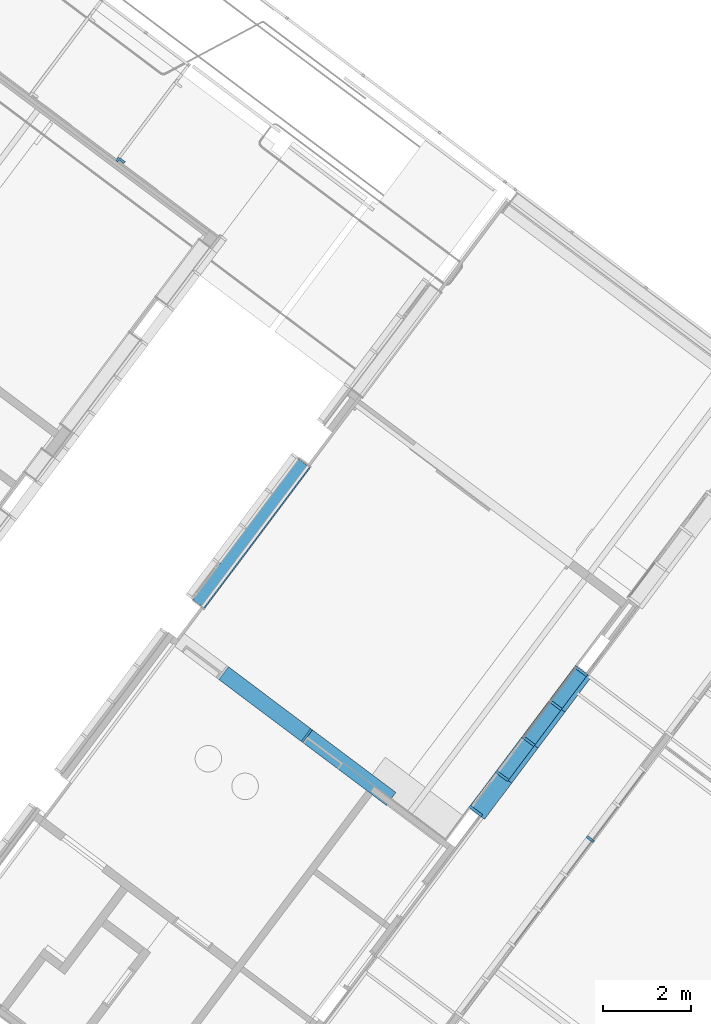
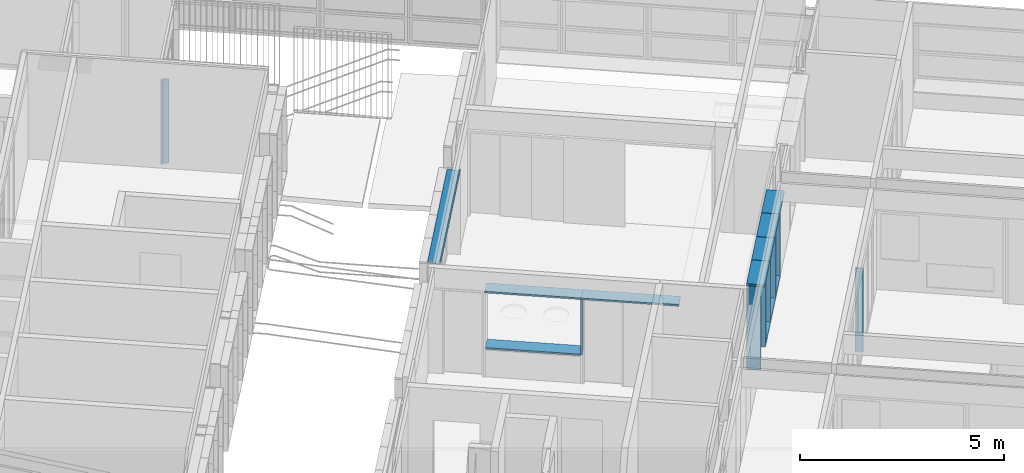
# One storey, part 27 of 243: 19 members, 5 elements without a shape of their own.
"""IFC2X3 building model written with IfcOpenShell, lengths in metres."""

from ifc_helpers import new_model, entity, si_unit, converted_unit, derived_unit, direction, frame, frame_2d, origin, origin_2d_with_axis, place, context, subcontext, project, spatial, polyline, rectangle, outline, extrude, source, transform, mapped, material, type_object, type_shapes, element, aggregate, save


model = new_model("IFC2X3")

# Units and contexts
model_context = context("Model", 3, precision=1e-05, world=origin(), true_north=direction((6.123031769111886e-17, 1.0)))
body_context = subcontext(model_context, "Body", "Model", "MODEL_VIEW")
ifc_project = project(units=[si_unit("LENGTHUNIT", "METRE"), si_unit("AREAUNIT", "SQUARE_METRE"), si_unit("VOLUMEUNIT", "CUBIC_METRE"), converted_unit("PLANEANGLEUNIT", "DEGREE", entity("IfcRatioMeasure", 0.017453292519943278), si_unit("PLANEANGLEUNIT", "RADIAN"), dimensions=[0, 0, 0, 0, 0, 0, 0]), si_unit("MASSUNIT", "GRAM", prefix="KILO"), derived_unit("MASSDENSITYUNIT", [(si_unit("MASSUNIT", "GRAM", prefix="KILO"), 1), (si_unit("LENGTHUNIT", "METRE"), -3)]), derived_unit("IONCONCENTRATIONUNIT", [(si_unit("MASSUNIT", "GRAM", prefix="KILO"), 1), (si_unit("LENGTHUNIT", "METRE"), -3)]), derived_unit("MOMENTOFINERTIAUNIT", [(si_unit("LENGTHUNIT", "METRE"), 4)]), si_unit("TIMEUNIT", "SECOND"), si_unit("FREQUENCYUNIT", "HERTZ"), si_unit("THERMODYNAMICTEMPERATUREUNIT", "DEGREE_CELSIUS"), derived_unit("THERMALTRANSMITTANCEUNIT", [(si_unit("MASSUNIT", "GRAM", prefix="KILO"), 1), (si_unit("THERMODYNAMICTEMPERATUREUNIT", "KELVIN"), -1), (si_unit("TIMEUNIT", "SECOND"), -3)]), derived_unit("THERMALCONDUCTANCEUNIT", [(si_unit("MASSUNIT", "GRAM", prefix="KILO"), 1), (si_unit("THERMODYNAMICTEMPERATUREUNIT", "KELVIN"), -1), (si_unit("TIMEUNIT", "SECOND"), -3), (si_unit("LENGTHUNIT", "METRE"), 1)]), derived_unit("VOLUMETRICFLOWRATEUNIT", [(si_unit("LENGTHUNIT", "METRE"), 3), (si_unit("TIMEUNIT", "SECOND"), -1)]), derived_unit("MASSFLOWRATEUNIT", [(si_unit("MASSUNIT", "GRAM", prefix="KILO"), 1), (si_unit("TIMEUNIT", "SECOND"), -1)]), derived_unit("ROTATIONALFREQUENCYUNIT", [(si_unit("TIMEUNIT", "SECOND"), -1)]), si_unit("ELECTRICCURRENTUNIT", "AMPERE"), si_unit("ELECTRICVOLTAGEUNIT", "VOLT"), si_unit("POWERUNIT", "WATT"), si_unit("FORCEUNIT", "NEWTON", prefix="KILO"), si_unit("ILLUMINANCEUNIT", "LUX"), si_unit("LUMINOUSFLUXUNIT", "LUMEN"), si_unit("LUMINOUSINTENSITYUNIT", "CANDELA"), derived_unit("USERDEFINED", [(si_unit("MASSUNIT", "GRAM", prefix="KILO"), -1), (si_unit("LENGTHUNIT", "METRE"), -2), (si_unit("TIMEUNIT", "SECOND"), 3), (si_unit("LUMINOUSFLUXUNIT", "LUMEN"), 1)]), derived_unit("USERDEFINED", [(si_unit("MASSUNIT", "GRAM", prefix="KILO"), 1), (si_unit("TIMEUNIT", "SECOND"), -3), (si_unit("LENGTHUNIT", "METRE"), 3), (si_unit("ELECTRICCURRENTUNIT", "AMPERE"), -2)]), derived_unit("SOUNDPOWERUNIT", [(si_unit("MASSUNIT", "GRAM", prefix="KILO"), 1), (si_unit("TIMEUNIT", "SECOND"), -3), (si_unit("LENGTHUNIT", "METRE"), 2)]), derived_unit("SOUNDPRESSUREUNIT", [(si_unit("MASSUNIT", "GRAM", prefix="KILO"), 1), (si_unit("LENGTHUNIT", "METRE"), -1), (si_unit("TIMEUNIT", "SECOND"), -2)]), derived_unit("LINEARVELOCITYUNIT", [(si_unit("LENGTHUNIT", "METRE"), 1), (si_unit("TIMEUNIT", "SECOND"), -1)]), si_unit("PRESSUREUNIT", "PASCAL"), derived_unit("USERDEFINED", [(si_unit("MASSUNIT", "GRAM", prefix="KILO"), 1), (si_unit("LENGTHUNIT", "METRE"), -2), (si_unit("TIMEUNIT", "SECOND"), -2)]), derived_unit("LINEARFORCEUNIT", [(si_unit("MASSUNIT", "GRAM", prefix="KILO"), 1), (si_unit("TIMEUNIT", "SECOND"), -2)]), derived_unit("PLANARFORCEUNIT", [(si_unit("MASSUNIT", "GRAM", prefix="KILO"), 1), (si_unit("LENGTHUNIT", "METRE"), -1), (si_unit("TIMEUNIT", "SECOND"), -2)]), derived_unit("SPECIFICHEATCAPACITYUNIT", [(si_unit("THERMODYNAMICTEMPERATUREUNIT", "KELVIN"), -1), (si_unit("LENGTHUNIT", "METRE"), 2), (si_unit("TIMEUNIT", "SECOND"), -2)]), derived_unit("HEATINGVALUEUNIT", [(si_unit("LENGTHUNIT", "METRE"), 2), (si_unit("TIMEUNIT", "SECOND"), -2)]), derived_unit("VAPORPERMEABILITYUNIT", [(si_unit("LENGTHUNIT", "METRE"), -1), (si_unit("TIMEUNIT", "SECOND"), 1)]), derived_unit("DYNAMICVISCOSITYUNIT", [(si_unit("MASSUNIT", "GRAM", prefix="KILO"), 1), (si_unit("TIMEUNIT", "SECOND"), -1), (si_unit("LENGTHUNIT", "METRE"), -1)]), derived_unit("THERMALEXPANSIONCOEFFICIENTUNIT", [(si_unit("THERMODYNAMICTEMPERATUREUNIT", "KELVIN"), -1)]), derived_unit("MODULUSOFELASTICITYUNIT", [(si_unit("MASSUNIT", "GRAM", prefix="KILO"), 1), (si_unit("LENGTHUNIT", "METRE"), -1), (si_unit("TIMEUNIT", "SECOND"), -2)]), derived_unit("ISOTHERMALMOISTURECAPACITYUNIT", [(si_unit("LENGTHUNIT", "METRE"), 3), (si_unit("MASSUNIT", "GRAM", prefix="KILO"), -1)]), derived_unit("MOISTUREDIFFUSIVITYUNIT", [(si_unit("TIMEUNIT", "SECOND"), -1), (si_unit("LENGTHUNIT", "METRE"), 2)])], contexts=[model_context])

# Site, building, storey
site_placement = place(None, frame((0.0, 0.0, 235.0), z_axis=(0.0, 0.0, 1.0), x_axis=(-0.7996477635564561, 0.6004693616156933, 0.0)))
site = spatial("IfcSite", under=ifc_project, at=site_placement, Name="Default", CompositionType="ELEMENT")
building_placement = place(site_placement, origin())
building = spatial("IfcBuilding", under=site, at=building_placement, CompositionType="ELEMENT")
storey_placement = place(building_placement, origin())
storey = spatial("IfcBuildingStorey", under=building, at=storey_placement, Name="P0- Escola", CompositionType="ELEMENT", Elevation=0.0)

# Curtain wall, members
curtain_wall_type_1 = type_object("IfcCurtainWallType", Name="Muro cortina:MC- INT- a4", PredefinedType="NOTDEFINED")
curtain_wall_1_placement = place(storey_placement, origin())
curtain_wall_1 = element("IfcCurtainWall", 1, at=curtain_wall_1_placement, inside=storey, type_object=curtain_wall_type_1, Name="Muro cortina:MC- INT- a4", ObjectType="Muro cortina:MC- INT- a4")
ifc_material_1 = material(Name="_Fusta massisa- T1")
member_type_1 = type_object("IfcMemberType", Name="Montante rectangular:MC- Fusta- 35x6 cm- Neutre", PredefinedType="MULLION", material=ifc_material_1)
shared_shape_1 = source(origin(), body_context, "Body", "SweptSolid", [
    extrude(rectangle(XDim=0.3500000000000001, YDim=0.06, at=origin_2d_with_axis()), frame((0.0, -0.13499999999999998, -2.5050000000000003), z_axis=(0.0, 0.0, 1.0), x_axis=(0.0, -1.0, 0.0)), (0.0, 0.0, 1.0), 2.5050000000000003),
])
type_shapes(member_type_1, [shared_shape_1])
member_1_placement = place(curtain_wall_1_placement, frame((15.955147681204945, -31.415191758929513, 0.0), z_axis=(0.0, 0.0, -1.0), x_axis=(0.0, 1.0, 0.0)))
member_1 = element("IfcMember", 2, at=member_1_placement, type_object=member_type_1, material=ifc_material_1, Name="Montante rectangular:MC- Fusta- 35x6 cm- Neutre", ObjectType="Montante rectangular:MC- Fusta- 35x6 cm- Neutre", context=body_context, shape_type="MappedRepresentation", body=[
    mapped(shared_shape_1, transform((0.0, 0.0, 0.0), scale=1.0)),
])
member_type_2 = type_object("IfcMemberType", Name="Montante rectangular:MC- Fusta- 45x6 cm- Superior vidre", PredefinedType="MULLION", material=ifc_material_1)
shared_shape_2 = source(origin(), body_context, "Body", "SweptSolid", [
    extrude(outline(polyline([(-0.13250000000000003, -0.01874999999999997), (-0.10250000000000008, -0.01874999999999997), (-0.10250000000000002, -0.0037499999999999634), (-0.0825000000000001, -0.0037499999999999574), (-0.0825000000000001, -0.018750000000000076), (0.3175000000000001, -0.018749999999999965), (0.3175000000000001, 0.04125000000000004), (-0.13249999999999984, 0.04124999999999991), (-0.13250000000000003, -0.01874999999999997)])), frame((-0.041249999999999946, -0.09249999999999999, -1.0), z_axis=(0.0, 0.0, 1.0), x_axis=(0.0, -1.0, 0.0)), (0.0, 0.0, 1.0), 0.9999999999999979),
])
type_shapes(member_type_2, [shared_shape_2])
member_2_placement = place(curtain_wall_1_placement, frame((15.955147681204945, -31.415191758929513, 2.565), z_axis=(0.0, 1.0, 0.0), x_axis=(0.0, 0.0, 1.0)))
member_2 = element("IfcMember", 3, at=member_2_placement, type_object=member_type_2, material=ifc_material_1, Name="Montante rectangular:MC- Fusta- 45x6 cm- Superior vidre", ObjectType="Montante rectangular:MC- Fusta- 45x6 cm- Superior vidre", context=body_context, shape_type="MappedRepresentation", body=[
    mapped(shared_shape_2, transform((0.0, 0.0, 0.0), scale=1.0)),
])
member_type_3 = type_object("IfcMemberType", Name="Montante rectangular:MC- Fusta- 35x6 cm- Neutre", PredefinedType="MULLION", material=ifc_material_1)
shared_shape_3 = source(origin(), body_context, "Body", "SweptSolid", [
    extrude(rectangle(XDim=0.3500000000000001, YDim=0.06, at=origin_2d_with_axis()), frame((-0.03, -0.13499999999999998, -0.9399999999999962), z_axis=(0.0, 0.0, 1.0), x_axis=(0.0, -1.0, 0.0)), (0.0, 0.0, 1.0), 0.9399999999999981),
])
type_shapes(member_type_3, [shared_shape_3])
member_3_placement = place(curtain_wall_1_placement, frame((15.955147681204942, -32.38519175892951, 0.0), z_axis=(0.0, -1.0, 0.0), x_axis=(0.0, 0.0, -1.0)))
member_3 = element("IfcMember", 4, at=member_3_placement, type_object=member_type_3, material=ifc_material_1, Name="Montante rectangular:MC- Fusta- 35x6 cm- Neutre", ObjectType="Montante rectangular:MC- Fusta- 35x6 cm- Neutre", context=body_context, shape_type="MappedRepresentation", body=[
    mapped(shared_shape_3, transform((0.0, 0.0, 0.0), scale=1.0)),
])

# Curtain wall, member
curtain_wall_type_2 = type_object("IfcCurtainWallType", Name="Muro cortina:MC- INT- a3", PredefinedType="NOTDEFINED")
curtain_wall_2_placement = place(storey_placement, origin())
curtain_wall_2 = element("IfcCurtainWall", 5, at=curtain_wall_2_placement, inside=storey, type_object=curtain_wall_type_2, Name="Muro cortina:MC- INT- a3", ObjectType="Muro cortina:MC- INT- a3")
member_type_4 = type_object("IfcMemberType", Name="Montante rectangular:MC- Fusta- 20x6 cm- Centre", PredefinedType="MULLION", material=ifc_material_1)
shared_shape_4 = source(origin(), body_context, "Body", "SweptSolid", [
    extrude(outline(polyline([(-0.14, -0.03), (0.009999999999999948, -0.03), (0.009999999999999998, -0.014999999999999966), (0.030000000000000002, -0.015), (0.030000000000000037, -0.030000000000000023), (0.060000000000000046, -0.029999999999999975), (0.059999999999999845, 0.030000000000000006), (0.030000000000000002, 0.029999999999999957), (0.030000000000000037, 0.015), (0.010000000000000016, 0.015), (0.010000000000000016, 0.03), (-0.14, 0.03), (-0.14, -0.03)])), frame((0.0, 0.019999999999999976, -2.505000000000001), z_axis=(0.0, 0.0, 1.0), x_axis=(0.0, -1.0, 0.0)), (0.0, 0.0, 1.0), 2.5050000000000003),
])
type_shapes(member_type_4, [shared_shape_4])
member_4_placement = place(curtain_wall_2_placement, frame((13.279147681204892, -31.470191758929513, 0.0), z_axis=(0.0, 0.0, -1.0), x_axis=(0.0, 1.0, 0.0)))
member_4 = element("IfcMember", 6, at=member_4_placement, type_object=member_type_4, material=ifc_material_1, Name="Montante rectangular:MC- Fusta- 20x6 cm- Centre", ObjectType="Montante rectangular:MC- Fusta- 20x6 cm- Centre", context=body_context, shape_type="MappedRepresentation", body=[
    mapped(shared_shape_4, transform((0.0, 0.0, 0.0), scale=1.0)),
])
aggregate(curtain_wall_2, [member_4])

# Member
member_type_5 = type_object("IfcMemberType", Name="Montante rectangular:MC- Fusta- 45x6 cm- Superior porta", PredefinedType="MULLION", material=ifc_material_1)
shared_shape_5 = source(origin(), body_context, "Body", "SweptSolid", [
    extrude(rectangle(XDim=0.45000000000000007, YDim=0.06, at=frame_2d((-4.163336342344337e-17, 0.0), x_axis=(1.0, 0.0))), frame((-0.03, -0.18500000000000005, -1.0325009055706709), z_axis=(0.0, 0.0, 1.0), x_axis=(0.0, -1.0, 0.0)), (0.0, 0.0, 1.0), 1.0325009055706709),
])
type_shapes(member_type_5, [shared_shape_5])
member_5_placement = place(curtain_wall_1_placement, frame((15.955147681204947, -30.38269085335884, 2.565), z_axis=(0.0, 1.0, 0.0), x_axis=(0.0, 0.0, 1.0)))
member_5 = element("IfcMember", 7, at=member_5_placement, type_object=member_type_5, material=ifc_material_1, Name="Montante rectangular:MC- Fusta- 45x6 cm- Superior porta", ObjectType="Montante rectangular:MC- Fusta- 45x6 cm- Superior porta", context=body_context, shape_type="MappedRepresentation", body=[
    mapped(shared_shape_5, transform((0.0, 0.0, 0.0), scale=1.0)),
])

member_type_6 = type_object("IfcMemberType", Name="Montante rectangular:MC- Fusta- 35x6 cm- Neutre", PredefinedType="MULLION", material=ifc_material_1)
shared_shape_6 = source(origin(), body_context, "Body", "SweptSolid", [
    extrude(rectangle(XDim=0.3500000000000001, YDim=0.06, at=origin_2d_with_axis()), frame((-0.03, -0.13499999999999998, -2.5050000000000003), z_axis=(0.0, 0.0, 1.0), x_axis=(0.0, -1.0, 0.0)), (0.0, 0.0, 1.0), 2.5050000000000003),
])
type_shapes(member_type_6, [shared_shape_6])
member_6_placement = place(curtain_wall_1_placement, frame((15.955147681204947, -30.38269085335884, 0.0), z_axis=(0.0, 0.0, -1.0), x_axis=(0.0, 1.0, 0.0)))
member_6 = element("IfcMember", 8, at=member_6_placement, type_object=member_type_6, material=ifc_material_1, Name="Montante rectangular:MC- Fusta- 35x6 cm- Neutre", ObjectType="Montante rectangular:MC- Fusta- 35x6 cm- Neutre", context=body_context, shape_type="MappedRepresentation", body=[
    mapped(shared_shape_6, transform((0.0, 0.0, 0.0), scale=1.0)),
])

member_type_7 = type_object("IfcMemberType", Name="Montante rectangular:MC- Fusta- 35x6 cm- Dreta", PredefinedType="MULLION", material=ifc_material_1)
shared_shape_7 = source(origin(), body_context, "Body", "SweptSolid", [
    extrude(outline(polyline([(-0.10749999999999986, -0.01874999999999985), (-0.07750000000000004, -0.01874999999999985), (-0.07750000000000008, -0.0037499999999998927), (-0.057500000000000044, -0.003749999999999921), (-0.05750000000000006, -0.01874999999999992), (0.24249999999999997, -0.018750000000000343), (0.24250000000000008, 0.041249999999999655), (-0.10749999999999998, 0.04125000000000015), (-0.10749999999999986, -0.01874999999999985)])), frame((-0.041249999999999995, -0.06749999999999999, -2.5050000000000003), z_axis=(0.0, 0.0, 1.0), x_axis=(0.0, -1.0, 0.0)), (0.0, 0.0, 1.0), 2.5050000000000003),
])
type_shapes(member_type_7, [shared_shape_7])
member_7_placement = place(curtain_wall_1_placement, frame((15.95514768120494, -34.44269085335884, 2.5050000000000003), z_axis=(0.0, 0.0, 1.0), x_axis=(0.0, -1.0, 0.0)))
member_7 = element("IfcMember", 9, at=member_7_placement, type_object=member_type_7, material=ifc_material_1, Name="Montante rectangular:MC- Fusta- 35x6 cm- Dreta", ObjectType="Montante rectangular:MC- Fusta- 35x6 cm- Dreta", context=body_context, shape_type="MappedRepresentation", body=[
    mapped(shared_shape_7, transform((0.0, 0.0, 0.0), scale=1.0)),
])

member_type_8 = type_object("IfcMemberType", Name="Montante rectangular:MC- Fusta- 45x6 cm- Superior vidre", PredefinedType="MULLION", material=ifc_material_1)
shared_shape_8 = source(origin(), body_context, "Body", "SweptSolid", [
    extrude(outline(polyline([(-0.08250000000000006, -0.01875000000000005), (0.3175000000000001, -0.01875000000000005), (0.3175000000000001, 0.041249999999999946), (-0.13249999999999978, 0.041249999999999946), (-0.1325, -0.018749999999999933), (-0.10250000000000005, -0.018749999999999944), (-0.10249999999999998, -0.0037499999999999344), (-0.08250000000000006, -0.0037499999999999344), (-0.08250000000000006, -0.01875000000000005)])), frame((-0.041249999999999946, -0.09249999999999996, -1.0), z_axis=(0.0, 0.0, 1.0), x_axis=(0.0, -1.0, 0.0)), (0.0, 0.0, 1.0), 0.9999999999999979),
])
type_shapes(member_type_8, [shared_shape_8])
member_8_placement = place(curtain_wall_1_placement, frame((15.955147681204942, -33.44269085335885, 2.565), z_axis=(0.0, 1.0, 0.0), x_axis=(0.0, 0.0, 1.0)))
member_8 = element("IfcMember", 10, at=member_8_placement, type_object=member_type_8, material=ifc_material_1, Name="Montante rectangular:MC- Fusta- 45x6 cm- Superior vidre", ObjectType="Montante rectangular:MC- Fusta- 45x6 cm- Superior vidre", context=body_context, shape_type="MappedRepresentation", body=[
    mapped(shared_shape_8, transform((0.0, 0.0, 0.0), scale=1.0)),
])

member_type_9 = type_object("IfcMemberType", Name="Montante rectangular:MC- Fusta- 35x6 cm- Centre", PredefinedType="MULLION", material=ifc_material_1)
shared_shape_9 = source(origin(), body_context, "Body", "SweptSolid", [
    extrude(outline(polyline([(-0.08500000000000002, -0.030000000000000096), (-0.05499999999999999, -0.030000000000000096), (-0.05499999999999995, -0.01500000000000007), (-0.03499999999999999, -0.015000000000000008), (-0.034999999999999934, -0.030000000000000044), (0.26500000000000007, -0.029999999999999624), (0.265, 0.030000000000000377), (-0.03500000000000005, 0.029999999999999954), (-0.03500000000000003, 0.014999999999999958), (-0.05500000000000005, 0.014999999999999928), (-0.05500000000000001, 0.029999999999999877), (-0.08499999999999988, 0.02999999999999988), (-0.08500000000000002, -0.030000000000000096)])), frame((0.0, -0.045000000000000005, -2.505000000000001), z_axis=(0.0, 0.0, 1.0), x_axis=(0.0, -1.0, 0.0)), (0.0, 0.0, 1.0), 2.5050000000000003),
])
type_shapes(member_type_9, [shared_shape_9])
member_9_placement = place(curtain_wall_1_placement, frame((15.955147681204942, -33.44269085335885, 0.0), z_axis=(0.0, 0.0, -1.0), x_axis=(0.0, 1.0, 0.0)))
member_9 = element("IfcMember", 11, at=member_9_placement, type_object=member_type_9, material=ifc_material_1, Name="Montante rectangular:MC- Fusta- 35x6 cm- Centre", ObjectType="Montante rectangular:MC- Fusta- 35x6 cm- Centre", context=body_context, shape_type="MappedRepresentation", body=[
    mapped(shared_shape_9, transform((0.0, 0.0, 0.0), scale=1.0)),
])

member_type_10 = type_object("IfcMemberType", Name="Montante rectangular:MC- Fusta- 45x6 cm- Superior vidre", PredefinedType="MULLION", material=ifc_material_1)
shared_shape_10 = source(origin(), body_context, "Body", "SweptSolid", [
    extrude(outline(polyline([(-0.08250000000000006, -0.01875000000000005), (0.3175000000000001, -0.01875000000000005), (0.3175000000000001, 0.041249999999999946), (-0.13249999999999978, 0.041249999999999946), (-0.1325, -0.018749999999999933), (-0.10250000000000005, -0.018749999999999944), (-0.10249999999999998, -0.0037499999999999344), (-0.08250000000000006, -0.0037499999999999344), (-0.08250000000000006, -0.01875000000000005)])), frame((-0.041249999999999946, -0.09249999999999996, -1.027499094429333), z_axis=(0.0, 0.0, 1.0), x_axis=(0.0, -1.0, 0.0)), (0.0, 0.0, 1.0), 1.027499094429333),
])
type_shapes(member_type_10, [shared_shape_10])
member_10_placement = place(curtain_wall_1_placement, frame((15.955147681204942, -32.41519175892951, 2.565), z_axis=(0.0, 1.0, 0.0), x_axis=(0.0, 0.0, 1.0)))
member_10 = element("IfcMember", 12, at=member_10_placement, type_object=member_type_10, material=ifc_material_1, Name="Montante rectangular:MC- Fusta- 45x6 cm- Superior vidre", ObjectType="Montante rectangular:MC- Fusta- 45x6 cm- Superior vidre", context=body_context, shape_type="MappedRepresentation", body=[
    mapped(shared_shape_10, transform((0.0, 0.0, 0.0), scale=1.0)),
])

member_type_11 = type_object("IfcMemberType", Name="Montante rectangular:MC- Fusta- 35x6 cm- Esquerra", PredefinedType="MULLION", material=ifc_material_1)
shared_shape_11 = source(origin(), body_context, "Body", "SweptSolid", [
    extrude(outline(polyline([(-0.10750000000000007, -0.01875000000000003), (-0.07750000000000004, -0.01875000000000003), (-0.07749999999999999, -0.0037500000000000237), (-0.05750000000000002, -0.0037500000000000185), (-0.057500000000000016, -0.01875000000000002), (0.24250000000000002, -0.018749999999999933), (0.24250000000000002, 0.041250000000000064), (-0.10749999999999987, 0.04124999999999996), (-0.10750000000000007, -0.01875000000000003)])), frame((-0.01124999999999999, -0.06750000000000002, -2.5050000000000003), z_axis=(0.0, 0.0, 1.0), x_axis=(0.0, -1.0, 0.0)), (0.0, 0.0, 1.0), 2.5050000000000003),
])
type_shapes(member_type_11, [shared_shape_11])
member_11_placement = place(curtain_wall_1_placement, frame((15.955147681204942, -32.41519175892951, 0.0), z_axis=(0.0, 0.0, -1.0), x_axis=(0.0, 1.0, 0.0)))
member_11 = element("IfcMember", 13, at=member_11_placement, type_object=member_type_11, material=ifc_material_1, Name="Montante rectangular:MC- Fusta- 35x6 cm- Esquerra", ObjectType="Montante rectangular:MC- Fusta- 35x6 cm- Esquerra", context=body_context, shape_type="MappedRepresentation", body=[
    mapped(shared_shape_11, transform((0.0, 0.0, 0.0), scale=1.0)),
])

member_type_12 = type_object("IfcMemberType", Name="Montante rectangular:MC- Fusta- 35x6 cm- Inferior", PredefinedType="MULLION", material=ifc_material_1)
shared_shape_12 = source(origin(), body_context, "Body", "SweptSolid", [
    extrude(outline(polyline([(-0.10749999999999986, -0.01874999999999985), (-0.07750000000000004, -0.01874999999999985), (-0.07750000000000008, -0.0037499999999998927), (-0.057500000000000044, -0.003749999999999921), (-0.05750000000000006, -0.01874999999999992), (0.24249999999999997, -0.018750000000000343), (0.24250000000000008, 0.041249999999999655), (-0.10749999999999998, 0.04125000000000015), (-0.10749999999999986, -0.01874999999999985)])), frame((-0.041249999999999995, -0.06749999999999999, -0.9099999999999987), z_axis=(0.0, 0.0, 1.0), x_axis=(0.0, -1.0, 0.0)), (0.0, 0.0, 1.0), 0.9099999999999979),
])
type_shapes(member_type_12, [shared_shape_12])
member_12_placement = place(curtain_wall_1_placement, frame((15.95514768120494, -34.382690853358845, 0.0), z_axis=(0.0, -1.0, 0.0), x_axis=(0.0, 0.0, -1.0)))
member_12 = element("IfcMember", 14, at=member_12_placement, type_object=member_type_12, material=ifc_material_1, Name="Montante rectangular:MC- Fusta- 35x6 cm- Inferior", ObjectType="Montante rectangular:MC- Fusta- 35x6 cm- Inferior", context=body_context, shape_type="MappedRepresentation", body=[
    mapped(shared_shape_12, transform((0.0, 0.0, 0.0), scale=1.0)),
])

member_type_13 = type_object("IfcMemberType", Name="Montante rectangular:MC- Fusta- 35x6 cm- Inferior", PredefinedType="MULLION", material=ifc_material_1)
shared_shape_13 = source(origin(), body_context, "Body", "SweptSolid", [
    extrude(outline(polyline([(-0.10749999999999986, -0.01874999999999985), (-0.07750000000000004, -0.01874999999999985), (-0.07750000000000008, -0.0037499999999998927), (-0.057500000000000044, -0.003749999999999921), (-0.05750000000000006, -0.01874999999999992), (0.24249999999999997, -0.018750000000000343), (0.24250000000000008, 0.041249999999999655), (-0.10749999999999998, 0.04125000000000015), (-0.10749999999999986, -0.01874999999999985)])), frame((-0.041249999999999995, -0.06749999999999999, -0.9674990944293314), z_axis=(0.0, 0.0, 1.0), x_axis=(0.0, -1.0, 0.0)), (0.0, 0.0, 1.0), 0.967499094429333),
])
type_shapes(member_type_13, [shared_shape_13])
member_13_placement = place(curtain_wall_1_placement, frame((15.955147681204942, -33.412690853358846, 0.0), z_axis=(0.0, -1.0, 0.0), x_axis=(0.0, 0.0, -1.0)))
member_13 = element("IfcMember", 15, at=member_13_placement, type_object=member_type_13, material=ifc_material_1, Name="Montante rectangular:MC- Fusta- 35x6 cm- Inferior", ObjectType="Montante rectangular:MC- Fusta- 35x6 cm- Inferior", context=body_context, shape_type="MappedRepresentation", body=[
    mapped(shared_shape_13, transform((0.0, 0.0, 0.0), scale=1.0)),
])

aggregate(curtain_wall_1, [member_5, member_6, member_7, member_8, member_9, member_10, member_11, member_2, member_1, member_12, member_13, member_3])

# Curtain wall, member
curtain_wall_type_3 = type_object("IfcCurtainWallType", Name="Muro cortina:MC- INT- k10- Pati passadís", PredefinedType="NOTDEFINED")
curtain_wall_3_placement = place(storey_placement, origin())
curtain_wall_3 = element("IfcCurtainWall", 16, at=curtain_wall_3_placement, inside=storey, type_object=curtain_wall_type_3, Name="Muro cortina:MC- INT- k10- Pati passadís", ObjectType="Muro cortina:MC- INT- k10- Pati passadís")
member_type_14 = type_object("IfcMemberType", Name="Montante rectangular:MC- Fusta- 35x3 cm- Pati aules- Remat superior", PredefinedType="MULLION", material=ifc_material_1)
shared_shape_14 = source(origin(), body_context, "Body", "SweptSolid", [
    extrude(outline(polyline([(-0.12166666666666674, -0.02666666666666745), (0.21333333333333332, -0.02666666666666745), (0.2133333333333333, -0.006666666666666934), (-0.09166666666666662, -0.006666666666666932), (-0.09166666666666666, 0.03333333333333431), (-0.12166666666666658, 0.03333333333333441), (-0.12166666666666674, -0.02666666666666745)])), frame((-0.033333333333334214, -0.026666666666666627, -4.020000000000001), z_axis=(0.0, 0.0, 1.0), x_axis=(0.0, -1.0, 0.0)), (0.0, 0.0, 1.0), 4.020000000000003),
])
type_shapes(member_type_14, [shared_shape_14])
member_14_placement = place(curtain_wall_3_placement, frame((23.645147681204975, -34.41519175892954, 2.565), z_axis=(0.0, -1.0, 0.0), x_axis=(0.0, 0.0, 1.0)))
member_14 = element("IfcMember", 17, at=member_14_placement, type_object=member_type_14, material=ifc_material_1, Name="Montante rectangular:MC- Fusta- 35x3 cm- Pati aules- Remat superior", ObjectType="Montante rectangular:MC- Fusta- 35x3 cm- Pati aules- Remat superior", context=body_context, shape_type="MappedRepresentation", body=[
    mapped(shared_shape_14, transform((0.0, 0.0, 0.0), scale=1.0)),
])
aggregate(curtain_wall_3, [member_14])

curtain_wall_type_4 = type_object("IfcCurtainWallType", PredefinedType="NOTDEFINED")
curtain_wall_4_placement = place(storey_placement, origin())
curtain_wall_4 = element("IfcCurtainWall", 18, at=curtain_wall_4_placement, inside=storey, type_object=curtain_wall_type_4)
ifc_material_2 = material(Name="_Alumini- T1- Perfil")
member_type_15 = type_object("IfcMemberType", Name="Montante rectangular:MC- Alu- 140x52,5 cm- Porta- dreta", PredefinedType="MULLION", material=ifc_material_2)
shared_shape_15 = source(origin(), body_context, "Body", "SweptSolid", [
    extrude(outline(polyline([(-0.022000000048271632, -0.04406250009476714), (0.11699999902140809, -0.04406250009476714), (0.11699999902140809, 0.008437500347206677), (-0.02199999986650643, 0.008437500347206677), (-0.021999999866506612, 0.06843750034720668), (-0.07299999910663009, 0.0684375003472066), (-0.07299999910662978, -0.03281250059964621), (-0.022000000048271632, -0.032812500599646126), (-0.022000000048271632, -0.04406250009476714)])), frame((-0.0684375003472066, -0.022999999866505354, -2.5050000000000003), z_axis=(0.0, 0.0, 1.0), x_axis=(0.0, -1.0, 0.0)), (0.0, 0.0, 1.0), 2.5050000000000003),
])
type_shapes(member_type_15, [shared_shape_15])
member_15_placement = place(curtain_wall_4_placement, frame((31.271147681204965, -37.35619175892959, 0.0), z_axis=(0.0, 0.0, -1.0), x_axis=(0.0, 1.0, 0.0)))
member_15 = element("IfcMember", 19, at=member_15_placement, type_object=member_type_15, material=ifc_material_2, Name="Montante rectangular:MC- Alu- 140x52,5 cm- Porta- dreta", ObjectType="Montante rectangular:MC- Alu- 140x52,5 cm- Porta- dreta", context=body_context, shape_type="MappedRepresentation", body=[
    mapped(shared_shape_15, transform((0.0, 0.0, 0.0), scale=1.0)),
])
aggregate(curtain_wall_4, [member_15])

# Curtain wall, members
curtain_wall_type_5 = type_object("IfcCurtainWallType", Name="Muro cortina:MC- INT- b3", PredefinedType="NOTDEFINED")
curtain_wall_5_placement = place(storey_placement, origin())
curtain_wall_5 = element("IfcCurtainWall", 20, at=curtain_wall_5_placement, inside=storey, type_object=curtain_wall_type_5, Name="Muro cortina:MC- INT- b3", ObjectType="Muro cortina:MC- INT- b3")
member_type_16 = type_object("IfcMemberType", Name="Montante rectangular:MC- Fusta- 38x5 cm- Menjador- neutre.rfa", PredefinedType="MULLION", material=ifc_material_1)
shared_shape_16 = source(origin(), body_context, "Body", "SweptSolid", [
    extrude(rectangle(XDim=0.36600000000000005, YDim=0.05, at=origin_2d_with_axis()), frame((-0.025000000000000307, 0.006999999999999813, -2.409000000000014), z_axis=(0.0, 0.0, 1.0), x_axis=(0.0, -1.0, 0.0)), (0.0, 0.0, 1.0), 2.409000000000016),
])
type_shapes(member_type_16, [shared_shape_16])
member_16_placement = place(curtain_wall_5_placement, frame((19.94214768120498, -29.46519175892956, 2.565), z_axis=(1.0, 0.0, 0.0), x_axis=(0.0, 0.0, 1.0)))
member_16 = element("IfcMember", 21, at=member_16_placement, type_object=member_type_16, material=ifc_material_1, Name="Montante rectangular:MC- Fusta- 38x5 cm- Menjador- neutre.rfa", ObjectType="Montante rectangular:MC- Fusta- 38x5 cm- Menjador- neutre.rfa", context=body_context, shape_type="MappedRepresentation", body=[
    mapped(shared_shape_16, transform((0.0, 0.0, 0.0), scale=1.0)),
])
member_type_17 = type_object("IfcMemberType", Name="Montante rectangular:MC- Fusta- 38x5 cm- Menjador- neutre.rfa", PredefinedType="MULLION", material=ifc_material_1)
shared_shape_17 = source(origin(), body_context, "Body", "SweptSolid", [
    extrude(rectangle(XDim=0.36600000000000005, YDim=0.05, at=origin_2d_with_axis()), frame((-0.025000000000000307, 0.006999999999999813, -2.395499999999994), z_axis=(0.0, 0.0, 1.0), x_axis=(0.0, -1.0, 0.0)), (0.0, 0.0, 1.0), 2.3954999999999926),
])
type_shapes(member_type_17, [shared_shape_17])
member_17_placement = place(curtain_wall_5_placement, frame((22.33764768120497, -29.465191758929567, 2.565), z_axis=(1.0, 0.0, 0.0), x_axis=(0.0, 0.0, 1.0)))
member_17 = element("IfcMember", 22, at=member_17_placement, type_object=member_type_17, material=ifc_material_1, Name="Montante rectangular:MC- Fusta- 38x5 cm- Menjador- neutre.rfa", ObjectType="Montante rectangular:MC- Fusta- 38x5 cm- Menjador- neutre.rfa", context=body_context, shape_type="MappedRepresentation", body=[
    mapped(shared_shape_17, transform((0.0, 0.0, 0.0), scale=1.0)),
])
member_type_18 = type_object("IfcMemberType", Name="Montante rectangular:MC- Fusta- 38x5 cm- Menjador- neutre.rfa", PredefinedType="MULLION", material=ifc_material_1)
shared_shape_18 = source(origin(), body_context, "Body", "SweptSolid", [
    extrude(rectangle(XDim=0.36600000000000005, YDim=0.05, at=origin_2d_with_axis()), frame((0.0, 0.006999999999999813, -1.66), z_axis=(0.0, 0.0, 1.0), x_axis=(0.0, -1.0, 0.0)), (0.0, 0.0, 1.0), 1.66),
])
type_shapes(member_type_18, [shared_shape_18])
member_18_placement = place(curtain_wall_5_placement, frame((19.94214768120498, -29.46519175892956, 0.855), z_axis=(0.0, 0.0, -1.0), x_axis=(1.0, 0.0, 0.0)))
member_18 = element("IfcMember", 23, at=member_18_placement, type_object=member_type_18, material=ifc_material_1, Name="Montante rectangular:MC- Fusta- 38x5 cm- Menjador- neutre.rfa", ObjectType="Montante rectangular:MC- Fusta- 38x5 cm- Menjador- neutre.rfa", context=body_context, shape_type="MappedRepresentation", body=[
    mapped(shared_shape_18, transform((0.0, 0.0, 0.0), scale=1.0)),
])
member_type_19 = type_object("IfcMemberType", Name="Montante rectangular:MC- Fusta- 38x5 cm- Menjador- neutre.rfa", PredefinedType="MULLION", material=ifc_material_1)
shared_shape_19 = source(origin(), body_context, "Body", "SweptSolid", [
    extrude(rectangle(XDim=0.36600000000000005, YDim=0.05, at=origin_2d_with_axis()), frame((0.0, 0.006999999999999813, -2.3454999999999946), z_axis=(0.0, 0.0, 1.0), x_axis=(0.0, -1.0, 0.0)), (0.0, 0.0, 1.0), 2.3454999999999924),
])
type_shapes(member_type_19, [shared_shape_19])
member_19_placement = place(curtain_wall_5_placement, frame((22.31264768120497, -29.465191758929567, 0.855), z_axis=(1.0, 0.0, 0.0), x_axis=(0.0, 0.0, 1.0)))
member_19 = element("IfcMember", 24, at=member_19_placement, type_object=member_type_19, material=ifc_material_1, Name="Montante rectangular:MC- Fusta- 38x5 cm- Menjador- neutre.rfa", ObjectType="Montante rectangular:MC- Fusta- 38x5 cm- Menjador- neutre.rfa", context=body_context, shape_type="MappedRepresentation", body=[
    mapped(shared_shape_19, transform((0.0, 0.0, 0.0), scale=1.0)),
])
aggregate(curtain_wall_5, [member_16, member_17, member_18, member_19])

save(model, "model.ifc")
